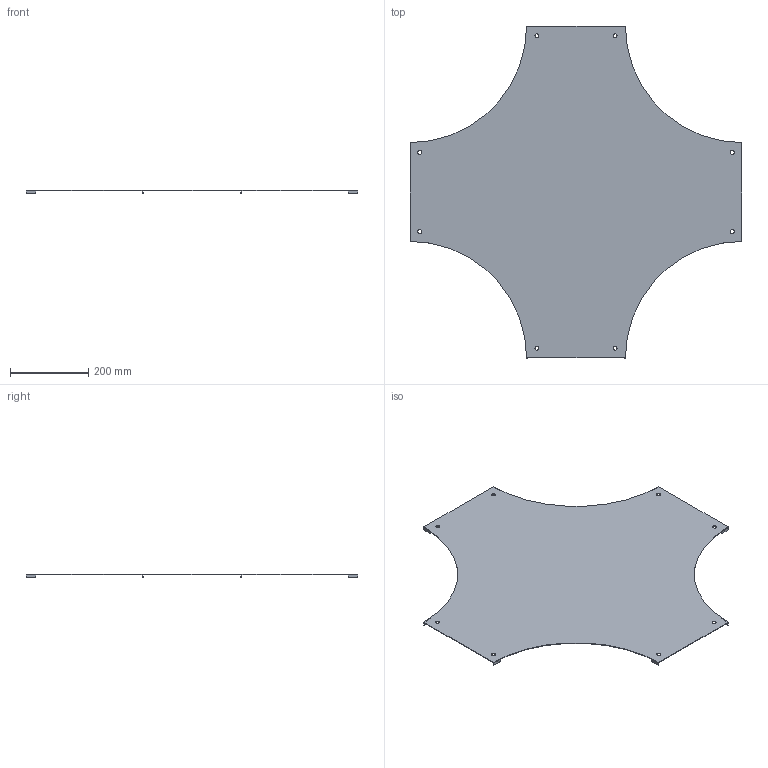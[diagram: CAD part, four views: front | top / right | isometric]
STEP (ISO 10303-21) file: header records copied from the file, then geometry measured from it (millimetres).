
FILE_DESCRIPTION(/* description */ ('','CAx-IF Rec.Pracs.---Representation and Presentation of Product Manufacturing Information (PMI)---4.0---2014-10-13'),/* implementation_level */ '2;1');
FILE_NAME(/* name */ 'Eurostrut_ECOC200-300_Cover Crossover for Cable Ladder ECL.step',/* time_stamp */ '2026-09-10T10:48:33+02:00',/* author */ (''),/* organization */ (''),/* preprocessor_version */ 'ST-DEVELOPER v20.1',/* originating_system */ 'Autodesk Revit 2027 27.2.0.39',/* authorisation */ '');
FILE_SCHEMA (('AP242_MANAGED_MODEL_BASED_3D_ENGINEERING_MIM_LF { 1 0 10303 442 2 1 4 }'));
Length unit declared in the file: millimetre
Products named in the file (6): TopLevelAssembly; Joined Solid Geometry; Joined Solid Geometry_1; Joined Solid Geometry_2; Joined Solid Geometry_3; Joined Solid Geometry_4
Assembly tree (5 placements, depth 2):
  TopLevelAssembly
    Joined Solid Geometry
    Joined Solid Geometry_1
    Joined Solid Geometry_2
    Joined Solid Geometry_3
    Joined Solid Geometry_4
Bounding box: 850 x 850 x 9 mm (x, y, z)
Volume: 665175.7 mm3; surface area: 892390.2 mm2
Topology: 9 solids, 9 shells, 74 faces, 168 edges, 112 vertices
Faces by surface type: plane 38, cylinder 36
Entity records: 2242 total; most frequent: DIRECTION 410, CARTESIAN_POINT 365, ORIENTED_EDGE 336, EDGE_CURVE 168, AXIS2_PLACEMENT_3D 157, VERTEX_POINT 112, LINE 96, VECTOR 96
